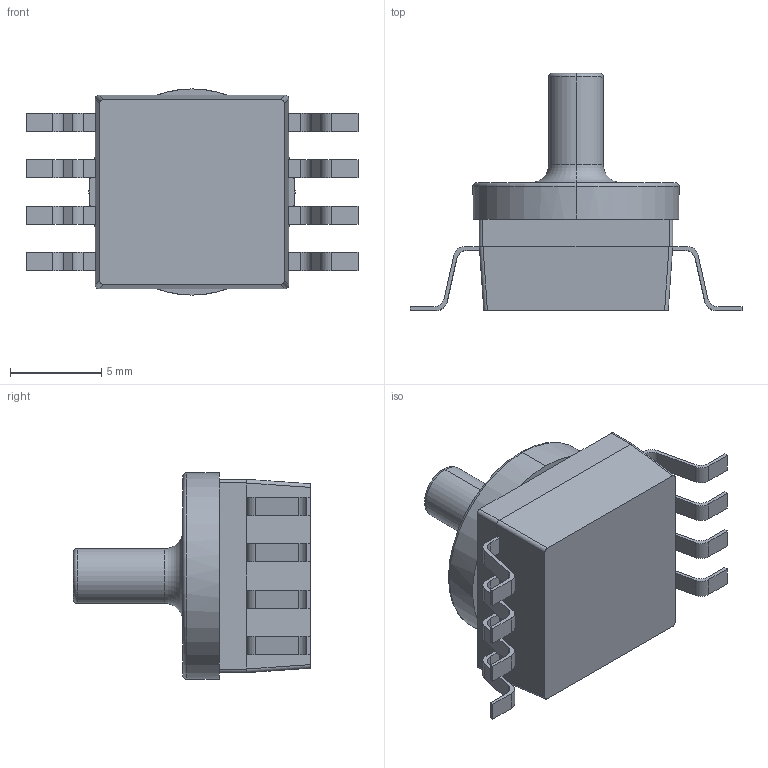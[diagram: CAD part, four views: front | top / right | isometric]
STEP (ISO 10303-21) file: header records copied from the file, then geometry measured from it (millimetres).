
FILE_DESCRIPTION (( 'STEP AP214' ), '1' );
FILE_NAME ('MP3V5010_482A.STEP', '2020-05-01T22:11:28', ( '' ), ( '' ), 'SwSTEP 2.0', 'SolidWorks 2011', '' );
FILE_SCHEMA (( 'AUTOMOTIVE_DESIGN' ));
Length unit declared in the file: millimetre
Products named in the file (1): MP3V5010_482A
Bounding box: 18.2 x 13 x 11.3 mm (x, y, z)
Volume: 778.6 mm3; surface area: 713.4 mm2
Topology: 1 solids, 1 shells, 144 faces, 390 edges, 250 vertices
Faces by surface type: plane 92, cylinder 46, torus 6
Entity records: 5672 total; most frequent: CARTESIAN_POINT 809, ORIENTED_EDGE 780, DIRECTION 772, EDGE_CURVE 390, LINE 282, VECTOR 282, VERTEX_POINT 250, AXIS2_PLACEMENT_3D 245
